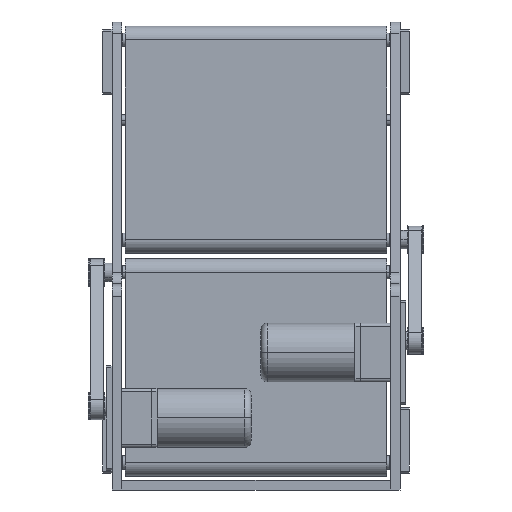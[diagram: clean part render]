
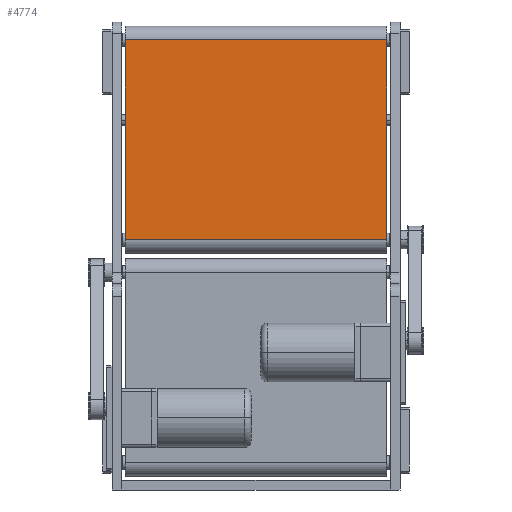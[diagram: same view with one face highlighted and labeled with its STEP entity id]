
A CAD part, front view. The second image highlights one B-rep face of the part: STEP entity #4774.
In plain terms, the highlighted planar face has unit normal (0, -1, 0).
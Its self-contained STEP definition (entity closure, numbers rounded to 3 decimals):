
#3448=PLANE('',#27312);
#4774=ADVANCED_FACE('',(#6389),#3448,.F.);
#6389=FACE_OUTER_BOUND('',#7883,.T.);
#7883=EDGE_LOOP('',(#15794,#15795,#15796,#15797));
#9651=LINE('',#40755,#11331);
#9656=LINE('',#40773,#11336);
#9661=LINE('',#40792,#11341);
#9666=LINE('',#40804,#11346);
#11331=VECTOR('',#30971,1.);
#11336=VECTOR('',#30988,1.);
#11341=VECTOR('',#31005,1.);
#11346=VECTOR('',#31022,1.);
#15794=ORIENTED_EDGE('',*,*,#23669,.T.);
#15795=ORIENTED_EDGE('',*,*,#23685,.F.);
#15796=ORIENTED_EDGE('',*,*,#23679,.F.);
#15797=ORIENTED_EDGE('',*,*,#23660,.T.);
#20693=VERTEX_POINT('',#40750);
#20695=VERTEX_POINT('',#40754);
#20703=VERTEX_POINT('',#40774);
#20711=VERTEX_POINT('',#40793);
#23660=EDGE_CURVE('',#20693,#20695,#9651,.T.);
#23669=EDGE_CURVE('',#20695,#20703,#9656,.T.);
#23679=EDGE_CURVE('',#20693,#20711,#9661,.T.);
#23685=EDGE_CURVE('',#20711,#20703,#9666,.T.);
#27312=AXIS2_PLACEMENT_3D('',#40809,#31030,#31031);
#30971=DIRECTION('',(0.,0.,1.));
#30988=DIRECTION('',(-1.,0.,0.));
#31005=DIRECTION('',(-1.,0.,0.));
#31022=DIRECTION('',(0.,0.,1.));
#31030=DIRECTION('',(0.,1.,0.));
#31031=DIRECTION('',(1.,0.,0.));
#40750=CARTESIAN_POINT('',(7.5,-21.,-200.));
#40754=CARTESIAN_POINT('',(7.5,-21.,200.));
#40755=CARTESIAN_POINT('',(7.5,-21.,-200.));
#40773=CARTESIAN_POINT('',(7.5,-21.,200.));
#40774=CARTESIAN_POINT('',(-297.808,-21.,200.));
#40792=CARTESIAN_POINT('',(7.5,-21.,-200.));
#40793=CARTESIAN_POINT('',(-297.808,-21.,-200.));
#40804=CARTESIAN_POINT('',(-297.808,-21.,-200.));
#40809=CARTESIAN_POINT('',(7.5,-21.,-200.));
